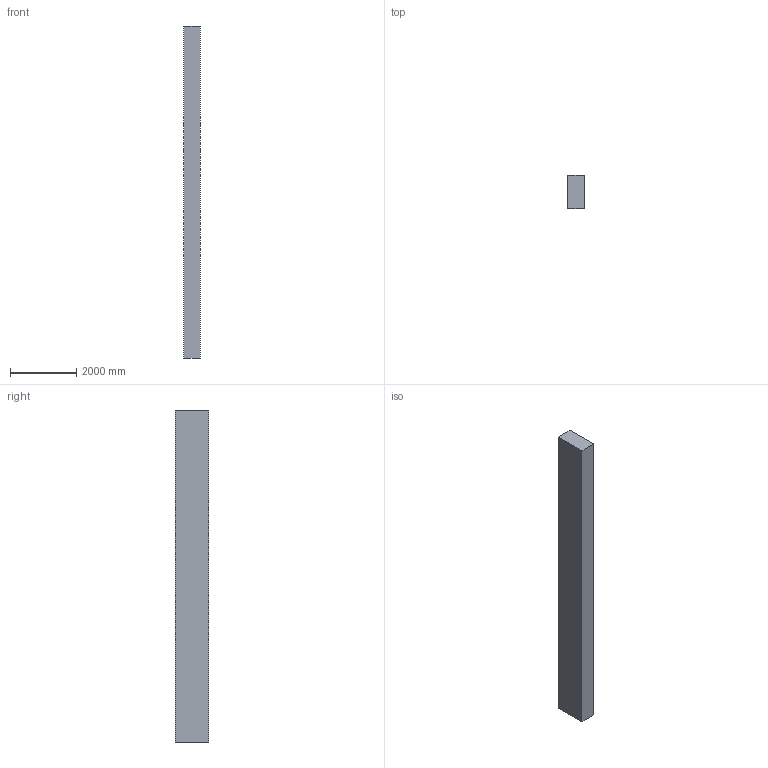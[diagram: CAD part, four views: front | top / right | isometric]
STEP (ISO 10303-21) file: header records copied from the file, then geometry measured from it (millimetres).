
FILE_DESCRIPTION( ( 'STEP Version 203' ), '1' );
FILE_NAME( ' ', '11/30/10 14:58:15', ( 'aho' ), ( ' ' ), 'PSStep 14.0', 'DesignModeler STEP Output', ' ' );
FILE_SCHEMA( ( 'AUTOMOTIVE_DESIGN { 1 0 10303 214 1 1 1 1 }' ) );
Length unit declared in the file: metre
Products named in the file (1): 1
Bounding box: 500 x 1000 x 10000 mm (x, y, z)
Volume: 5000000000 mm3; surface area: 31000000 mm2
Topology: 1 solids, 1 shells, 6 faces, 12 edges, 8 vertices
Faces by surface type: plane 6
Entity records: 171 total; most frequent: CARTESIAN_POINT 27, DIRECTION 26, ORIENTED_EDGE 24, EDGE_CURVE 12, LINE 12, VECTOR 12, VERTEX_POINT 8, AXIS2_PLACEMENT_3D 7
